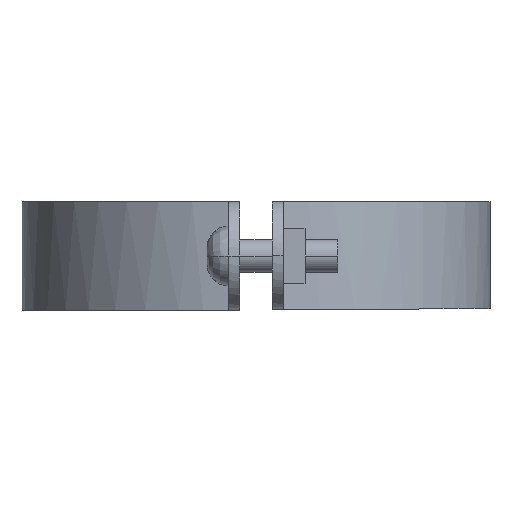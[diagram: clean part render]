
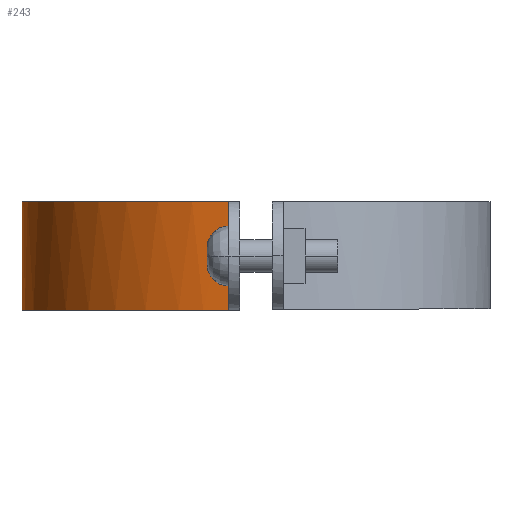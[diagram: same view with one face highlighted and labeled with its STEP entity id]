
A CAD part, left-side view. The second image highlights one B-rep face of the part: STEP entity #243.
In plain terms, the highlighted free-form (B-spline) face has degree [3, 1] with [4, 2] control points.
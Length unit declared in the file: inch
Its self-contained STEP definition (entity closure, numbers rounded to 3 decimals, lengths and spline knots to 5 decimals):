
#243=ADVANCED_FACE('',(#489),#490,.T.);
#489=FACE_OUTER_BOUND('',#1044,.T.);
#490=B_SPLINE_SURFACE_WITH_KNOTS('',3,1,((#1045,#1046),(#1047,#1048),(#1049,#1050),(#1051,#1052)),.UNSPECIFIED.,.F.,.F.,.F.,(4,4),(2,2),(-1.0,-0.0),(0.0,1.25),.UNSPECIFIED.);
#1044=EDGE_LOOP('',(#1663,#1664,#1665,#1666));
#1045=CARTESIAN_POINT('',(3.40494,5.33842,0.0));
#1046=CARTESIAN_POINT('',(3.40494,5.33842,1.25));
#1047=CARTESIAN_POINT('',(2.04233,5.33842,0.0));
#1048=CARTESIAN_POINT('',(2.04233,5.33842,1.25));
#1049=CARTESIAN_POINT('',(0.89562,4.31813,0.0));
#1050=CARTESIAN_POINT('',(0.89562,4.31813,1.25));
#1051=CARTESIAN_POINT('',(0.73718,2.96478,0.0));
#1052=CARTESIAN_POINT('',(0.73718,2.96478,1.25));
#1663=ORIENTED_EDGE('',*,*,#2127,.T.);
#1664=ORIENTED_EDGE('',*,*,#1942,.T.);
#1665=ORIENTED_EDGE('',*,*,#1970,.T.);
#1666=ORIENTED_EDGE('',*,*,#2128,.F.);
#1942=EDGE_CURVE('',#2203,#2210,#2212,.T.);
#1970=EDGE_CURVE('',#2210,#2259,#2261,.T.);
#2127=EDGE_CURVE('',#2503,#2203,#2504,.T.);
#2128=EDGE_CURVE('',#2503,#2259,#2505,.T.);
#2203=VERTEX_POINT('',#2592);
#2210=VERTEX_POINT('',#2606);
#2212=LINE('',#2609,#2610);
#2259=VERTEX_POINT('',#2687);
#2261=B_SPLINE_CURVE_WITH_KNOTS('',3,(#2690,#2691,#2692,#2693),.UNSPECIFIED.,.F.,.F.,(4,4),(0.0,1.0),.UNSPECIFIED.);
#2503=VERTEX_POINT('',#3179);
#2504=B_SPLINE_CURVE_WITH_KNOTS('',3,(#3180,#3181,#3182,#3183),.UNSPECIFIED.,.F.,.F.,(4,4),(-1.0,-0.0),.UNSPECIFIED.);
#2505=LINE('',#3184,#3185);
#2592=CARTESIAN_POINT('',(0.73718,2.96478,0.00011));
#2606=CARTESIAN_POINT('',(0.73718,2.96478,1.24992));
#2609=CARTESIAN_POINT('',(0.73718,2.96478,0.0));
#2610=VECTOR('',#3333,1.0);
#2687=CARTESIAN_POINT('',(3.40494,5.33842,1.24992));
#2690=CARTESIAN_POINT('',(0.73718,2.96478,1.24992));
#2691=CARTESIAN_POINT('',(0.89562,4.31813,1.24992));
#2692=CARTESIAN_POINT('',(2.04233,5.33842,1.24992));
#2693=CARTESIAN_POINT('',(3.40494,5.33842,1.24992));
#3179=CARTESIAN_POINT('',(3.40494,5.33842,0.00011));
#3180=CARTESIAN_POINT('',(3.40494,5.33842,0.00011));
#3181=CARTESIAN_POINT('',(2.04233,5.33842,0.00011));
#3182=CARTESIAN_POINT('',(0.89562,4.31813,0.00011));
#3183=CARTESIAN_POINT('',(0.73718,2.96478,0.00011));
#3184=CARTESIAN_POINT('',(3.40494,5.33842,0.0));
#3185=VECTOR('',#3447,1.0);
#3333=DIRECTION('',(0.0,0.0,1.0));
#3447=DIRECTION('',(0.0,0.0,1.0));
